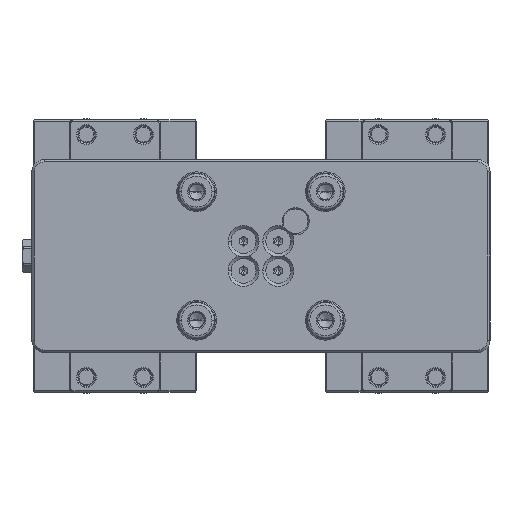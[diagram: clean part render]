
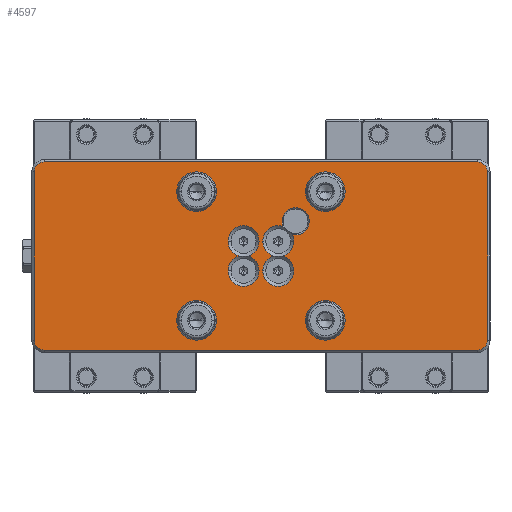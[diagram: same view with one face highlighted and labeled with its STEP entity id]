
A CAD part, front view. The second image highlights one B-rep face of the part: STEP entity #4597.
In plain terms, the highlighted planar face has unit normal (0, -1, 0).
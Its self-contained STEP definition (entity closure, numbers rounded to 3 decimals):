
#2=CARTESIAN_POINT('',(26.,0.,-26.));
#3=DIRECTION('',(0.,1.,0.));
#4=DIRECTION('',(1.,0.,0.));
#5=AXIS2_PLACEMENT_3D('',#2,#3,#4);
#7=CARTESIAN_POINT('',(26.,0.,-26.));
#8=DIRECTION('',(0.,1.,0.));
#9=DIRECTION('',(-1.,0.,0.));
#10=AXIS2_PLACEMENT_3D('',#7,#8,#9);
#12=CARTESIAN_POINT('',(26.,0.,26.));
#13=DIRECTION('',(0.,1.,0.));
#14=DIRECTION('',(1.,0.,0.));
#15=AXIS2_PLACEMENT_3D('',#12,#13,#14);
#17=CARTESIAN_POINT('',(26.,0.,26.));
#18=DIRECTION('',(0.,1.,0.));
#19=DIRECTION('',(-1.,0.,0.));
#20=AXIS2_PLACEMENT_3D('',#17,#18,#19);
#22=CARTESIAN_POINT('',(-26.,0.,-26.));
#23=DIRECTION('',(0.,1.,0.));
#24=DIRECTION('',(1.,0.,0.));
#25=AXIS2_PLACEMENT_3D('',#22,#23,#24);
#27=CARTESIAN_POINT('',(-26.,0.,-26.));
#28=DIRECTION('',(0.,1.,0.));
#29=DIRECTION('',(-1.,0.,0.));
#30=AXIS2_PLACEMENT_3D('',#27,#28,#29);
#32=CARTESIAN_POINT('',(-26.,0.,26.));
#33=DIRECTION('',(0.,1.,0.));
#34=DIRECTION('',(1.,0.,0.));
#35=AXIS2_PLACEMENT_3D('',#32,#33,#34);
#37=CARTESIAN_POINT('',(-26.,0.,26.));
#38=DIRECTION('',(0.,1.,0.));
#39=DIRECTION('',(-1.,0.,0.));
#40=AXIS2_PLACEMENT_3D('',#37,#38,#39);
#42=CARTESIAN_POINT('',(-7.,0.,-6.));
#43=DIRECTION('',(0.,-1.,0.));
#44=DIRECTION('',(-1.,0.,0.));
#45=AXIS2_PLACEMENT_3D('',#42,#43,#44);
#47=CARTESIAN_POINT('',(-7.,0.,-6.));
#48=DIRECTION('',(0.,-1.,0.));
#49=DIRECTION('',(1.,0.,0.));
#50=AXIS2_PLACEMENT_3D('',#47,#48,#49);
#52=CARTESIAN_POINT('',(-7.,0.,6.));
#53=DIRECTION('',(0.,-1.,0.));
#54=DIRECTION('',(0.28,0.,-0.96));
#55=AXIS2_PLACEMENT_3D('',#52,#53,#54);
#57=CARTESIAN_POINT('',(-7.,0.,6.));
#58=DIRECTION('',(0.,-1.,0.));
#59=DIRECTION('',(1.,0.,0.));
#60=AXIS2_PLACEMENT_3D('',#57,#58,#59);
#62=CARTESIAN_POINT('',(-7.,0.,6.));
#63=DIRECTION('',(0.,-1.,0.));
#64=DIRECTION('',(-1.,0.,0.));
#65=AXIS2_PLACEMENT_3D('',#62,#63,#64);
#67=CARTESIAN_POINT('',(-7.,0.,-6.));
#68=DIRECTION('',(0.,-1.,0.));
#69=DIRECTION('',(-0.28,0.,0.96));
#70=AXIS2_PLACEMENT_3D('',#67,#68,#69);
#72=CARTESIAN_POINT('',(7.,0.,-6.));
#73=DIRECTION('',(0.,-1.,0.));
#74=DIRECTION('',(-1.,0.,0.));
#75=AXIS2_PLACEMENT_3D('',#72,#73,#74);
#77=CARTESIAN_POINT('',(7.,0.,-6.));
#78=DIRECTION('',(0.,-1.,0.));
#79=DIRECTION('',(1.,0.,0.));
#80=AXIS2_PLACEMENT_3D('',#77,#78,#79);
#82=CARTESIAN_POINT('',(7.,0.,6.));
#83=DIRECTION('',(0.,-1.,0.));
#84=DIRECTION('',(0.28,0.,-0.96));
#85=AXIS2_PLACEMENT_3D('',#82,#83,#84);
#87=CARTESIAN_POINT('',(7.,0.,6.));
#88=DIRECTION('',(0.,-1.,0.));
#89=DIRECTION('',(1.,0.,0.));
#90=AXIS2_PLACEMENT_3D('',#87,#88,#89);
#92=CARTESIAN_POINT('',(7.,0.,6.));
#93=DIRECTION('',(0.,-1.,0.));
#94=DIRECTION('',(0.303,0.,0.953));
#95=AXIS2_PLACEMENT_3D('',#92,#93,#94);
#97=CARTESIAN_POINT('',(7.,0.,6.));
#98=DIRECTION('',(0.,-1.,0.));
#99=DIRECTION('',(-1.,0.,0.));
#100=AXIS2_PLACEMENT_3D('',#97,#98,#99);
#102=CARTESIAN_POINT('',(7.,0.,-6.));
#103=DIRECTION('',(0.,-1.,0.));
#104=DIRECTION('',(-0.28,0.,0.96));
#105=AXIS2_PLACEMENT_3D('',#102,#103,#104);
#107=DIRECTION('',(0.,0.,-1.));
#108=VECTOR('',#107,68.);
#109=CARTESIAN_POINT('',(-91.5,0.,
34.));
#110=LINE('',#109,#108);
#111=CARTESIAN_POINT('',(-87.5,0.,34.));
#112=DIRECTION('',(0.,-1.,0.));
#113=DIRECTION('',(0.,0.,1.));
#114=AXIS2_PLACEMENT_3D('',#111,#112,#113);
#116=DIRECTION('',(-1.,0.,0.));
#117=VECTOR('',#116,175.);
#118=CARTESIAN_POINT('',(87.5,0.,38.));
#119=LINE('',#118,#117);
#120=CARTESIAN_POINT('',(87.5,0.,34.));
#121=DIRECTION('',(0.,-1.,0.));
#122=DIRECTION('',(1.,0.,0.));
#123=AXIS2_PLACEMENT_3D('',#120,#121,#122);
#125=DIRECTION('',(0.,0.,1.));
#126=VECTOR('',#125,68.);
#127=CARTESIAN_POINT('',(91.5,0.,
-34.));
#128=LINE('',#127,#126);
#129=CARTESIAN_POINT('',(87.5,0.,-34.));
#130=DIRECTION('',(0.,-1.,0.));
#131=DIRECTION('',(0.,0.,-1.));
#132=AXIS2_PLACEMENT_3D('',#129,#130,#131);
#134=DIRECTION('',(1.,0.,0.));
#135=VECTOR('',#134,175.);
#136=CARTESIAN_POINT('',(-87.5,0.,
-38.));
#137=LINE('',#136,#135);
#138=CARTESIAN_POINT('',(-87.5,0.,-34.));
#139=DIRECTION('',(0.,-1.,0.));
#140=DIRECTION('',(-1.,0.,0.));
#141=AXIS2_PLACEMENT_3D('',#138,#139,#140);
#692=CARTESIAN_POINT('',(14.,0.,14.));
#693=DIRECTION('',(0.,1.,0.));
#694=DIRECTION('',(-0.928,0.,-0.372));
#695=AXIS2_PLACEMENT_3D('',#692,#693,#694);
#3628=CARTESIAN_POINT('',(32.5,0.,-26.));
#3629=CARTESIAN_POINT('',(19.5,0.,-26.));
#3630=VERTEX_POINT('',#3628);
#3631=VERTEX_POINT('',#3629);
#3636=CARTESIAN_POINT('',(32.5,0.,26.));
#3637=CARTESIAN_POINT('',(19.5,0.,26.));
#3638=VERTEX_POINT('',#3636);
#3639=VERTEX_POINT('',#3637);
#3644=CARTESIAN_POINT('',(-19.5,0.,-26.));
#3645=CARTESIAN_POINT('',(-32.5,0.,-26.));
#3646=VERTEX_POINT('',#3644);
#3647=VERTEX_POINT('',#3645);
#3652=CARTESIAN_POINT('',(-19.5,0.,26.));
#3653=CARTESIAN_POINT('',(-32.5,0.,26.));
#3654=VERTEX_POINT('',#3652);
#3655=VERTEX_POINT('',#3653);
#3804=CARTESIAN_POINT('',(-0.75,0.,6.));
#3805=CARTESIAN_POINT('',(-13.25,0.,6.));
#3806=VERTEX_POINT('',#3804);
#3807=VERTEX_POINT('',#3805);
#3812=CARTESIAN_POINT('',(13.25,0.,6.));
#3813=CARTESIAN_POINT('',(12.652,0.,8.668));
#3814=VERTEX_POINT('',#3812);
#3815=VERTEX_POINT('',#3813);
#3816=CARTESIAN_POINT('',(8.894,0.,11.956));
#3817=CARTESIAN_POINT('',(0.75,0.,6.));
#3818=VERTEX_POINT('',#3816);
#3819=VERTEX_POINT('',#3817);
#3826=CARTESIAN_POINT('',(-13.25,0.,-6.));
#3827=CARTESIAN_POINT('',(-0.75,0.,-6.));
#3828=VERTEX_POINT('',#3826);
#3829=VERTEX_POINT('',#3827);
#3830=CARTESIAN_POINT('',(-5.25,0.,0.));
#3831=VERTEX_POINT('',#3830);
#3832=CARTESIAN_POINT('',(-8.75,0.,0.));
#3833=VERTEX_POINT('',#3832);
#3838=CARTESIAN_POINT('',(0.75,0.,-6.));
#3839=CARTESIAN_POINT('',(13.25,0.,-6.));
#3840=VERTEX_POINT('',#3838);
#3841=VERTEX_POINT('',#3839);
#3842=CARTESIAN_POINT('',(8.75,0.,0.));
#3843=VERTEX_POINT('',#3842);
#3844=CARTESIAN_POINT('',(5.25,0.,0.));
#3845=VERTEX_POINT('',#3844);
#4322=CARTESIAN_POINT('',(-91.5,0.,
34.));
#4323=CARTESIAN_POINT('',(-91.5,0.,
-34.));
#4324=VERTEX_POINT('',#4322);
#4325=VERTEX_POINT('',#4323);
#4326=CARTESIAN_POINT('',(-87.5,0.,38.));
#4327=VERTEX_POINT('',#4326);
#4330=CARTESIAN_POINT('',(87.5,0.,
38.));
#4331=VERTEX_POINT('',#4330);
#4334=CARTESIAN_POINT('',(91.5,0.,34.));
#4335=VERTEX_POINT('',#4334);
#4338=CARTESIAN_POINT('',(91.5,0.,
-34.));
#4339=VERTEX_POINT('',#4338);
#4342=CARTESIAN_POINT('',(87.5,0.,-38.));
#4343=VERTEX_POINT('',#4342);
#4346=CARTESIAN_POINT('',(-87.5,0.,
-38.));
#4347=VERTEX_POINT('',#4346);
#4518=CARTESIAN_POINT('',(0.,0.,0.));
#4519=DIRECTION('',(0.,1.,0.));
#4520=DIRECTION('',(1.,0.,0.));
#4521=AXIS2_PLACEMENT_3D('',#4518,#4519,#4520);
#4522=PLANE('',#4521);
#4524=ORIENTED_EDGE('',*,*,#4523,.F.);
#4526=ORIENTED_EDGE('',*,*,#4525,.F.);
#4528=ORIENTED_EDGE('',*,*,#4527,.F.);
#4530=ORIENTED_EDGE('',*,*,#4529,.F.);
#4532=ORIENTED_EDGE('',*,*,#4531,.F.);
#4534=ORIENTED_EDGE('',*,*,#4533,.F.);
#4536=ORIENTED_EDGE('',*,*,#4535,.F.);
#4538=ORIENTED_EDGE('',*,*,#4537,.F.);
#4539=EDGE_LOOP('',(#4524,#4526,#4528,#4530,#4532,#4534,#4536,#4538));
#4540=FACE_OUTER_BOUND('',#4539,.F.);
#4542=ORIENTED_EDGE('',*,*,#4541,.F.);
#4544=ORIENTED_EDGE('',*,*,#4543,.F.);
#4545=EDGE_LOOP('',(#4542,#4544));
#4546=FACE_BOUND('',#4545,.F.);
#4548=ORIENTED_EDGE('',*,*,#4547,.F.);
#4550=ORIENTED_EDGE('',*,*,#4549,.F.);
#4551=EDGE_LOOP('',(#4548,#4550));
#4552=FACE_BOUND('',#4551,.F.);
#4554=ORIENTED_EDGE('',*,*,#4553,.F.);
#4556=ORIENTED_EDGE('',*,*,#4555,.F.);
#4557=EDGE_LOOP('',(#4554,#4556));
#4558=FACE_BOUND('',#4557,.F.);
#4560=ORIENTED_EDGE('',*,*,#4559,.T.);
#4562=ORIENTED_EDGE('',*,*,#4561,.T.);
#4564=ORIENTED_EDGE('',*,*,#4563,.T.);
#4566=ORIENTED_EDGE('',*,*,#4565,.T.);
#4568=ORIENTED_EDGE('',*,*,#4567,.T.);
#4570=ORIENTED_EDGE('',*,*,#4569,.T.);
#4571=EDGE_LOOP('',(#4560,#4562,#4564,#4566,#4568,#4570));
#4572=FACE_BOUND('',#4571,.F.);
#4574=ORIENTED_EDGE('',*,*,#4573,.T.);
#4576=ORIENTED_EDGE('',*,*,#4575,.T.);
#4578=ORIENTED_EDGE('',*,*,#4577,.T.);
#4580=ORIENTED_EDGE('',*,*,#4579,.T.);
#4582=ORIENTED_EDGE('',*,*,#4581,.F.);
#4584=ORIENTED_EDGE('',*,*,#4583,.T.);
#4586=ORIENTED_EDGE('',*,*,#4585,.T.);
#4588=ORIENTED_EDGE('',*,*,#4587,.T.);
#4589=EDGE_LOOP('',(#4574,#4576,#4578,#4580,#4582,#4584,#4586,#4588));
#4590=FACE_BOUND('',#4589,.F.);
#4592=ORIENTED_EDGE('',*,*,#4591,.F.);
#4594=ORIENTED_EDGE('',*,*,#4593,.F.);
#4595=EDGE_LOOP('',(#4592,#4594));
#4596=FACE_BOUND('',#4595,.F.);
#6=CIRCLE('',#5,6.5);
#11=CIRCLE('',#10,6.5);
#16=CIRCLE('',#15,6.5);
#21=CIRCLE('',#20,6.5);
#26=CIRCLE('',#25,6.5);
#31=CIRCLE('',#30,6.5);
#36=CIRCLE('',#35,6.5);
#41=CIRCLE('',#40,6.5);
#46=CIRCLE('',#45,6.25);
#51=CIRCLE('',#50,6.25);
#56=CIRCLE('',#55,6.25);
#61=CIRCLE('',#60,6.25);
#66=CIRCLE('',#65,6.25);
#71=CIRCLE('',#70,6.25);
#76=CIRCLE('',#75,6.25);
#81=CIRCLE('',#80,6.25);
#86=CIRCLE('',#85,6.25);
#91=CIRCLE('',#90,6.25);
#96=CIRCLE('',#95,6.25);
#101=CIRCLE('',#100,6.25);
#106=CIRCLE('',#105,6.25);
#115=CIRCLE('',#114,4.);
#124=CIRCLE('',#123,4.);
#133=CIRCLE('',#132,4.);
#142=CIRCLE('',#141,4.);
#696=CIRCLE('',#695,5.5);
#4523=EDGE_CURVE('',#4324,#4325,#110,.T.);
#4525=EDGE_CURVE('',#4327,#4324,#115,.T.);
#4527=EDGE_CURVE('',#4331,#4327,#119,.T.);
#4529=EDGE_CURVE('',#4335,#4331,#124,.T.);
#4531=EDGE_CURVE('',#4339,#4335,#128,.T.);
#4533=EDGE_CURVE('',#4343,#4339,#133,.T.);
#4535=EDGE_CURVE('',#4347,#4343,#137,.T.);
#4537=EDGE_CURVE('',#4325,#4347,#142,.T.);
#4541=EDGE_CURVE('',#3638,#3639,#16,.T.);
#4543=EDGE_CURVE('',#3639,#3638,#21,.T.);
#4547=EDGE_CURVE('',#3646,#3647,#26,.T.);
#4549=EDGE_CURVE('',#3647,#3646,#31,.T.);
#4553=EDGE_CURVE('',#3654,#3655,#36,.T.);
#4555=EDGE_CURVE('',#3655,#3654,#41,.T.);
#4559=EDGE_CURVE('',#3828,#3829,#46,.T.);
#4561=EDGE_CURVE('',#3829,#3831,#51,.T.);
#4563=EDGE_CURVE('',#3831,#3806,#56,.T.);
#4565=EDGE_CURVE('',#3806,#3807,#61,.T.);
#4567=EDGE_CURVE('',#3807,#3833,#66,.T.);
#4569=EDGE_CURVE('',#3833,#3828,#71,.T.);
#4573=EDGE_CURVE('',#3840,#3841,#76,.T.);
#4575=EDGE_CURVE('',#3841,#3843,#81,.T.);
#4577=EDGE_CURVE('',#3843,#3814,#86,.T.);
#4579=EDGE_CURVE('',#3814,#3815,#91,.T.);
#4581=EDGE_CURVE('',#3818,#3815,#696,.T.);
#4583=EDGE_CURVE('',#3818,#3819,#96,.T.);
#4585=EDGE_CURVE('',#3819,#3845,#101,.T.);
#4587=EDGE_CURVE('',#3845,#3840,#106,.T.);
#4591=EDGE_CURVE('',#3630,#3631,#6,.T.);
#4593=EDGE_CURVE('',#3631,#3630,#11,.T.);
#4597=ADVANCED_FACE('',(#4540,#4546,#4552,#4558,#4572,#4590,#4596),#4522,.F.);
